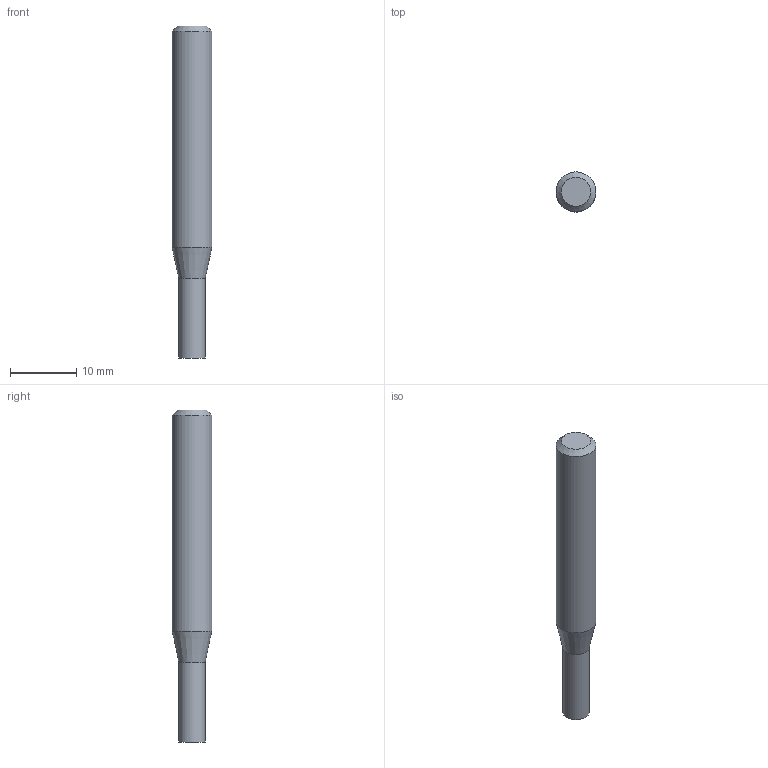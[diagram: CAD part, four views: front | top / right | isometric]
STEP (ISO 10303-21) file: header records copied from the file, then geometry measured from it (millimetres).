
FILE_DESCRIPTION((''),'2;1');
FILE_NAME('C:\Users\nsx150\AppData\Local\Temp\Mastercam 2021\E36A1X9CCL\TEMP.step','2023-04-21T15:18:25',(''),(''),'STEP Write','Mastercam 2021 ... CNC Software, Inc.','');
FILE_SCHEMA(('AUTOMOTIVE_DESIGN'));
Length unit declared in the file: millimetre
Products named in the file (1): None
Bounding box: 6 x 6 x 50 mm (x, y, z)
Volume: 1180.3 mm3; surface area: 910.3 mm2
Topology: 2 solids, 2 shells, 8 faces, 10 edges, 6 vertices
Faces by surface type: plane 4, cylinder 2, cone 2
Full cylindrical faces by diameter (mm): 4 x1, 6 x1
Entity records: 190 total; most frequent: DIRECTION 32, CARTESIAN_POINT 22, AXIS2_PLACEMENT_3D 16, ORIENTED_EDGE 12, EDGE_LOOP 12, STYLED_ITEM 11, ADVANCED_FACE 8, VERTEX_POINT 6
